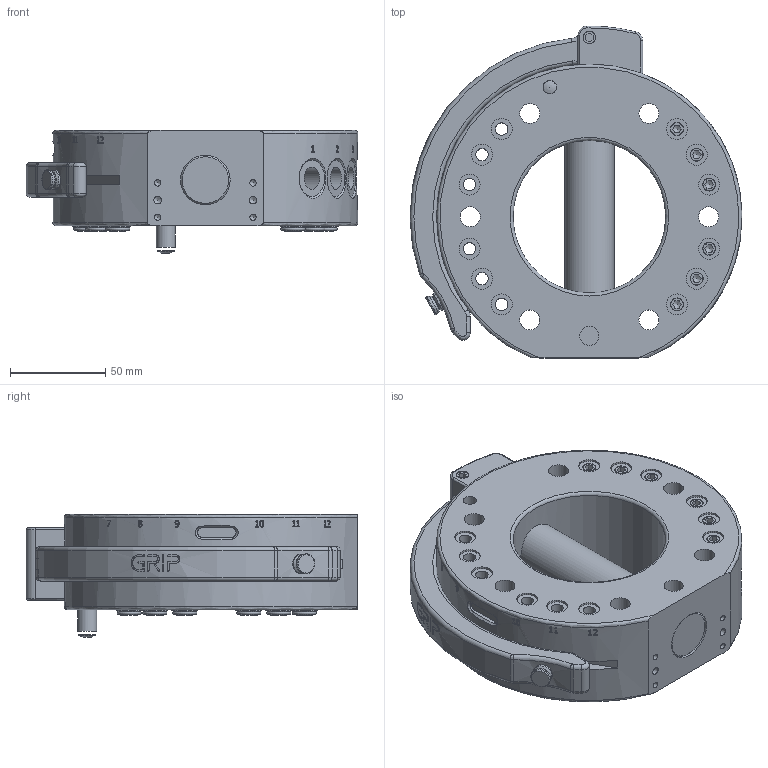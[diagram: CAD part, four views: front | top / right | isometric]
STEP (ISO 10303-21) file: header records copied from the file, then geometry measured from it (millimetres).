
FILE_DESCRIPTION(/* description */ (''),/* implementation_level */ '2;1');
FILE_NAME(/* name */ 'G-SHS160-O-K125.stp',/* time_stamp */ '2024-05-29T10:34:52+02:00',/* author */ ('ysplieth'),/* organization */ (''),/* preprocessor_version */ 'ST-DEVELOPER v20',/* originating_system */ 'Autodesk Inventor 2024',/* authorisation */ '');
FILE_SCHEMA (('AUTOMOTIVE_DESIGN { 1 0 10303 214 3 1 1 }'));
Products named in the file (1): Bauteil9
Bounding box: 173.99 x 173.99 x 64.5 mm (x, y, z)
Volume: 771059 mm3; surface area: 122678.7 mm2
Topology: 1 solids, 20 shells, 798 faces, 1992 edges, 1311 vertices
Faces by surface type: plane 294, cylinder 220, bspline 138, cone 99, torus 45, sphere 2
Full cylindrical faces by diameter (mm): 0.83 x1, 2.5 x2, 3.2 x3, 3.3 x5, 4 x2, 4.2 x2, 4.8 x1, 5 x2, 5.5 x2, 6.5 x18, 6.647 x4, 6.75 x12, 7 x2, 8.2 x12, 10 x2, 10.15 x1, 10.2 x1, 10.5 x6, 10.6 x1, 11 x12, 11.6 x6, 13.2 x12, 13.6 x12, 18 x6, 26 x3, 80 x1
Entity records: 63051 total; most frequent: CARTESIAN_POINT 43957, ORIENTED_EDGE 3940, DIRECTION 3375, EDGE_CURVE 1970, VERTEX_POINT 1311, AXIS2_PLACEMENT_3D 1298, EDGE_LOOP 975, STYLED_ITEM 799
